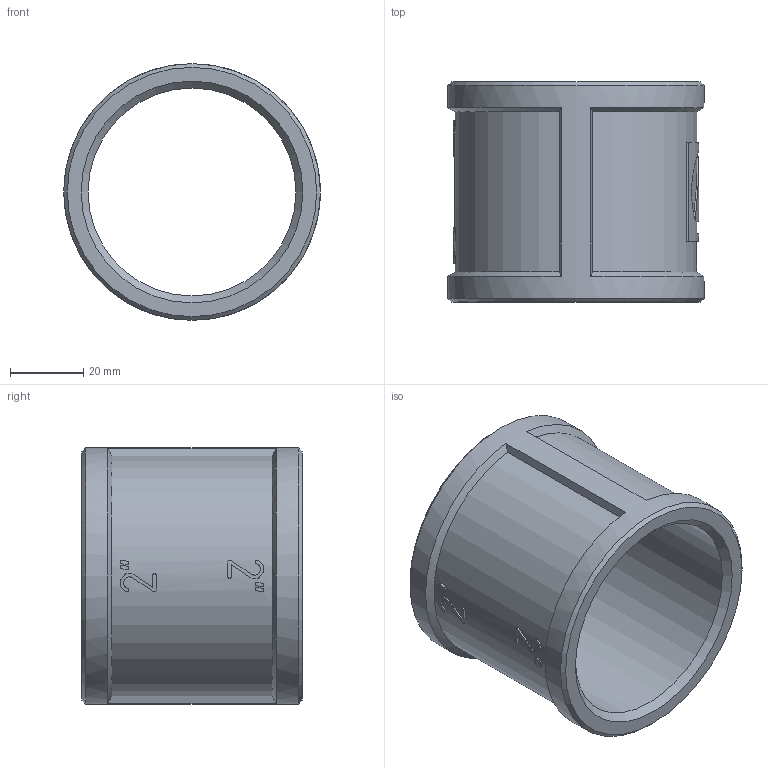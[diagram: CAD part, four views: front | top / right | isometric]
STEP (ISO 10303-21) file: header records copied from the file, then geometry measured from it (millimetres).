
FILE_DESCRIPTION(('STEP AP203'), '1');
FILE_NAME('ﾂﾐ.713461.006 - VTr.270.N.0009 ﾌ G2', '2024-06-27T12:57:13', ('Boss'), (''), 'C3D Converter', 'C3D Toolkit', '');
FILE_SCHEMA(('CONFIG_CONTROL_DESIGN'));
Length unit declared in the file: millimetre
Products named in the file (1): ВР.713461.006
Bounding box: 70 x 60 x 70 mm (x, y, z)
Volume: 61369.5 mm3; surface area: 26243.1 mm2
Topology: 1 solids, 1 shells, 150 faces, 410 edges, 272 vertices
Faces by surface type: extrusion 78, plane 50, cylinder 14, cone 8
Full cylindrical faces by diameter (mm): 56.657 x1, 70 x1
Entity records: 7353 total; most frequent: CARTESIAN_POINT 3999, ORIENTED_EDGE 806, DIRECTION 443, EDGE_CURVE 403, VERTEX_POINT 272, B_SPLINE_CURVE_WITH_KNOTS 244, VECTOR 221, EDGE_LOOP 169
